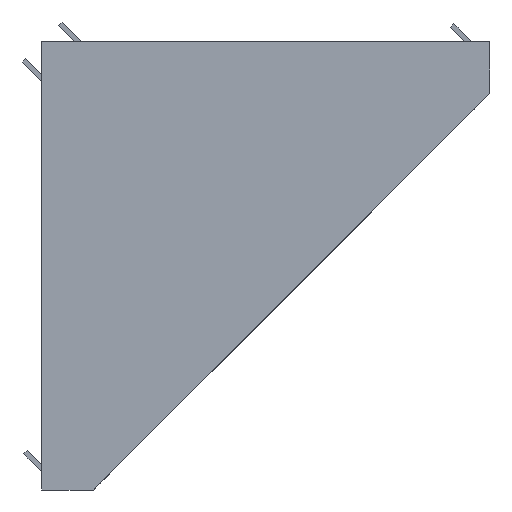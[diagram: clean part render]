
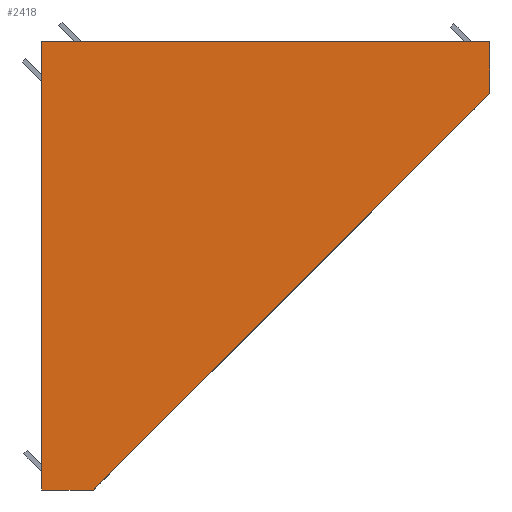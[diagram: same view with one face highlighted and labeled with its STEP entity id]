
A CAD part, front view. The second image highlights one B-rep face of the part: STEP entity #2418.
In plain terms, the highlighted planar face has unit normal (0, -1, 0).
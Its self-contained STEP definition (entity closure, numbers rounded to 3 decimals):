
#573=DIRECTION('',(0.,0.,1.));
#574=VECTOR('',#573,87.);
#575=CARTESIAN_POINT('',(0.,-43.5,-87.));
#576=LINE('',#575,#574);
#577=DIRECTION('',(1.,0.,0.));
#578=VECTOR('',#577,87.);
#579=CARTESIAN_POINT('',(0.,-43.5,0.));
#580=LINE('',#579,#578);
#581=DIRECTION('',(0.,0.,-1.));
#582=VECTOR('',#581,10.);
#583=CARTESIAN_POINT('',(87.,-43.5,0.));
#584=LINE('',#583,#582);
#585=DIRECTION('',(-0.707,0.,-0.707));
#586=VECTOR('',#585,108.894);
#587=CARTESIAN_POINT('',(87.,-43.5,-10.));
#588=LINE('',#587,#586);
#589=DIRECTION('',(-1.,0.,0.));
#590=VECTOR('',#589,10.);
#591=CARTESIAN_POINT('',(10.,-43.5,-87.));
#592=LINE('',#591,#590);
#1515=CARTESIAN_POINT('',(0.,-43.5,-87.));
#1516=CARTESIAN_POINT('',(0.,-43.5,0.));
#1517=VERTEX_POINT('',#1515);
#1518=VERTEX_POINT('',#1516);
#1519=CARTESIAN_POINT('',(87.,-43.5,0.));
#1520=VERTEX_POINT('',#1519);
#1521=CARTESIAN_POINT('',(87.,-43.5,-10.));
#1522=VERTEX_POINT('',#1521);
#1523=CARTESIAN_POINT('',(10.,-43.5,-87.));
#1524=VERTEX_POINT('',#1523);
#2403=CARTESIAN_POINT('',(0.,-43.5,0.));
#2404=DIRECTION('',(0.,1.,0.));
#2405=DIRECTION('',(1.,0.,0.));
#2406=AXIS2_PLACEMENT_3D('',#2403,#2404,#2405);
#2407=PLANE('',#2406);
#2408=ORIENTED_EDGE('',*,*,#2274,.T.);
#2409=ORIENTED_EDGE('',*,*,#1838,.T.);
#2411=ORIENTED_EDGE('',*,*,#2410,.T.);
#2413=ORIENTED_EDGE('',*,*,#2412,.T.);
#2415=ORIENTED_EDGE('',*,*,#2414,.T.);
#2416=EDGE_LOOP('',(#2408,#2409,#2411,#2413,#2415));
#2417=FACE_OUTER_BOUND('',#2416,.F.);
#2418=ADVANCED_FACE('',(#2417),#2407,.F.);
#1838=EDGE_CURVE('',#1518,#1520,#580,.T.);
#2274=EDGE_CURVE('',#1517,#1518,#576,.T.);
#2410=EDGE_CURVE('',#1520,#1522,#584,.T.);
#2412=EDGE_CURVE('',#1522,#1524,#588,.T.);
#2414=EDGE_CURVE('',#1524,#1517,#592,.T.);
